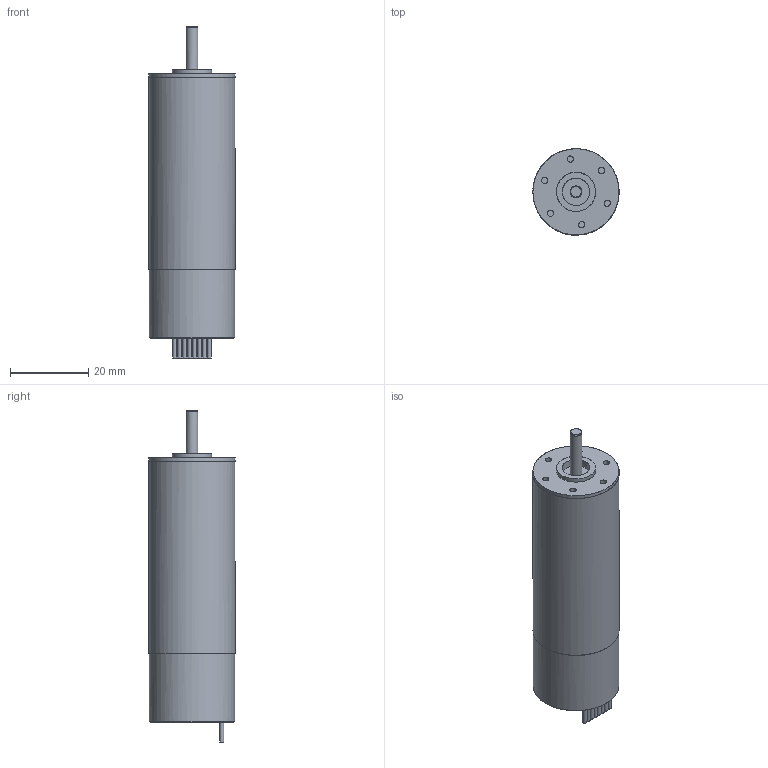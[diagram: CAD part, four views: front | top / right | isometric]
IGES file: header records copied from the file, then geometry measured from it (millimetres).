
Global section: file name: D:\Daten-Huge\PLM_Export\Huellen_aufbr\Vertrieb\Kombi\22xx_BX4_CSD_CCD\2250.BX4_CSD_CCD.igs; native system: NX V7.5; preprocessor: SIEMENS PLM Software NX 7.5; author: DR. FRITZ FAULHABER GmbH & Co. KG; organization: DR. FRITZ FAULHABER GmbH & Co. KG; date: 20121029.083028; units: millimetre
Bounding box: 22.03 x 22.03 x 84.8 mm (x, y, z)
Surface area: 5849.7 mm2 (no closed solid volume)
Topology: 0 solids, 0 shells, 59 faces, 490 edges, 462 vertices
Faces by surface type: bspline 59
